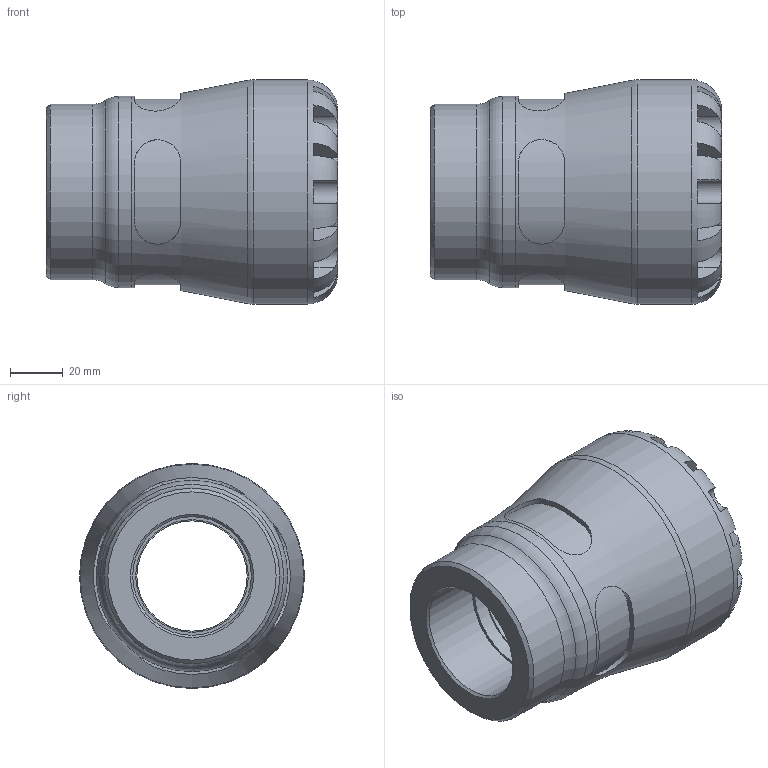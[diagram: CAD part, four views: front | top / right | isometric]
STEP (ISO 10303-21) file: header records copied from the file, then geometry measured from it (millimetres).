
FILE_DESCRIPTION(/* description */ ('PLASSON FEMALE ADAPTOR 50X1.1/2" SERIES 1'),/* implementation_level */ '2;1');
FILE_NAME(/* name */ 'C:\Dropbox\KIMPROJECTS-Inventor\99-16-3568-Processing\1003\100300050015_190300050015.ipt.step',/* time_stamp */ '2017-01-22T09:49:26+02:00',/* author */ ('KIM'),/* organization */ (''),/* preprocessor_version */ 'ST-DEVELOPER v15.6',/* originating_system */ 'Autodesk Inventor 2015',/* authorisation */ '');
FILE_SCHEMA (('AUTOMOTIVE_DESIGN { 1 0 10303 214 3 1 1 }'));
Length unit declared in the file: millimetre
Products named in the file (1): 100300050015_190300050015
Bounding box: 110 x 85 x 85 mm (x, y, z)
Volume: 291197 mm3; surface area: 51191.4 mm2
Topology: 1 solids, 1 shells, 104 faces, 255 edges, 159 vertices
Faces by surface type: plane 61, cylinder 35, torus 5, cone 3
Full cylindrical faces by diameter (mm): 41.667 x1, 42.603 x1, 44.845 x1, 50 x1, 66.3 x1, 72.25 x1, 85 x1
Entity records: 3882 total; most frequent: CARTESIAN_POINT 1443, DIRECTION 472, ORIENTED_EDGE 470, EDGE_CURVE 235, AXIS2_PLACEMENT_3D 196, VERTEX_POINT 155, EDGE_LOOP 128, STYLED_ITEM 105
